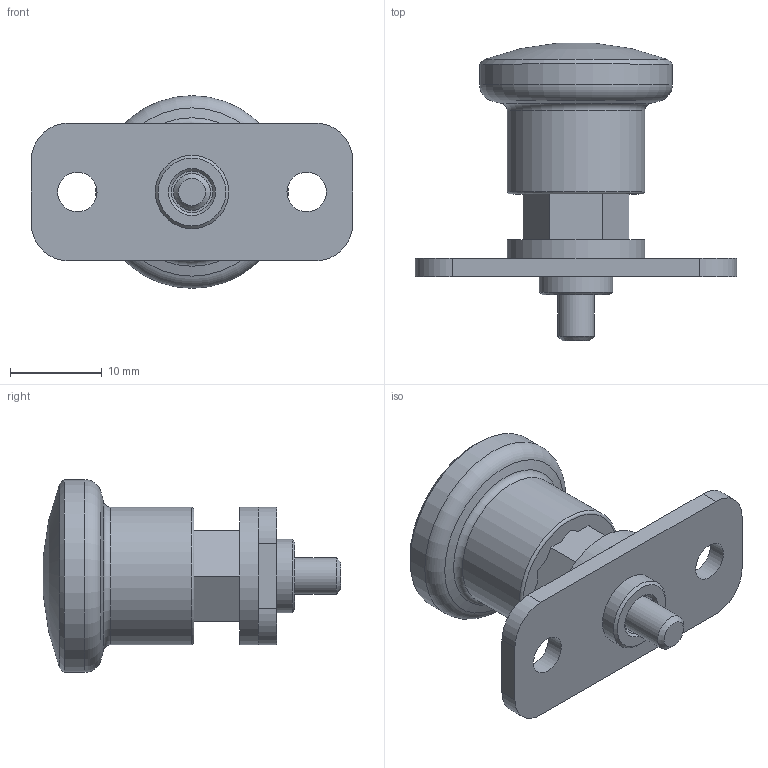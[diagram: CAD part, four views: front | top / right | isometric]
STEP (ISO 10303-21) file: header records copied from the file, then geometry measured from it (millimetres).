
FILE_DESCRIPTION( ( 'STEP AP203' ), '1' );
FILE_NAME( 'C:/Temp/Ganter_Step_05_03_2020/data/3_1/gn822_9/gn822_9_cn/Stainless Steel-Mini indexing plunger GN 822.9-4-10-CN (activated).stp', '2020-03-12T09:25:12', ( 'License CC BY-ND 4.0' ), ( 'CADENAS' ), ' ', 'PARTsolutions', ' ' );
FILE_SCHEMA( ( 'CONFIG_CONTROL_DESIGN' ) );
Length unit declared in the file: millimetre
Products named in the file (3): Stainless Steel-Mini indexing plunger GN 822.9-4-10-CN (activated); _Stainless Steel-Mini indexing plunger GN 822.9-4-10-CN (deactivated)_1; _Stainless Steel-Mini indexing plunger GN 822.9-4-10-CN (deactivated)_2
Assembly tree (2 placements, depth 2):
  Stainless Steel-Mini indexing plunger GN 822.9-4-10-CN (activated)
    _Stainless Steel-Mini indexing plunger GN 822.9-4-10-CN (deactivated)_1
    _Stainless Steel-Mini indexing plunger GN 822.9-4-10-CN (deactivated)_2
Bounding box: 35 x 32.43 x 21 mm (x, y, z)
Volume: 5002 mm3; surface area: 4278.6 mm2
Topology: 2 solids, 2 shells, 81 faces, 189 edges, 119 vertices
Faces by surface type: plane 47, cylinder 16, cone 14, torus 3, sphere 1
Full cylindrical faces by diameter (mm): 3 x1, 3.2 x1, 4 x1, 4.3 x2, 4.5 x2, 8 x1, 10 x1, 15 x2, 21 x1
Entity records: 2376 total; most frequent: CARTESIAN_POINT 510, DIRECTION 362, ORIENTED_EDGE 326, EDGE_CURVE 163, AXIS2_PLACEMENT_3D 133, EDGE_LOOP 118, VERTEX_POINT 117, FACE_OUTER_BOUND 97
